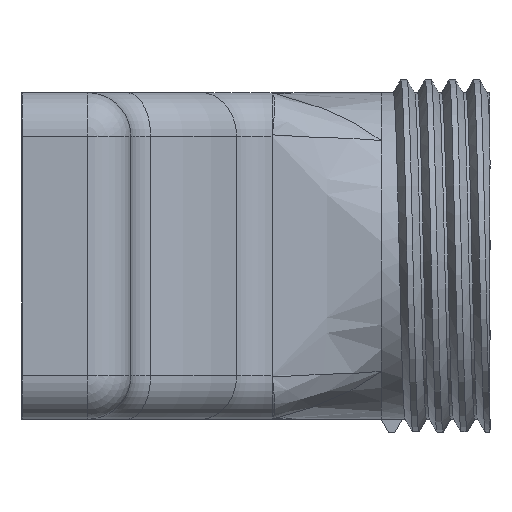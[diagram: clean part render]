
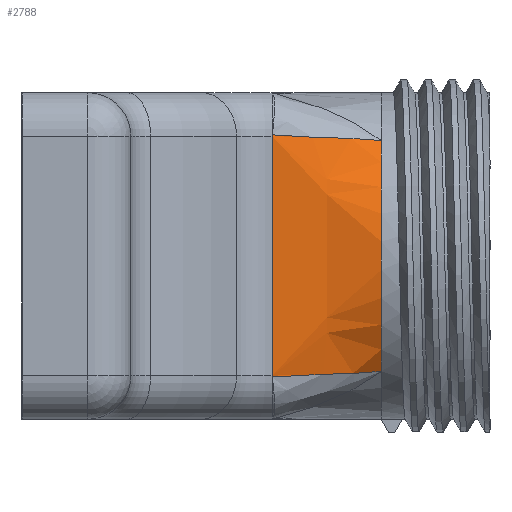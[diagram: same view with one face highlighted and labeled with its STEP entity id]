
A CAD part, front view. The second image highlights one B-rep face of the part: STEP entity #2788.
In plain terms, the highlighted free-form (B-spline) face has degree [3, 1] with [18, 2] control points.
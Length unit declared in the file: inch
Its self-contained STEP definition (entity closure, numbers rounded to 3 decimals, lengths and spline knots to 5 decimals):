
#50 = CARTESIAN_POINT ( 'NONE',  ( 0.90653, -0.27861, 0.26723 ) ) ;
#99 = CARTESIAN_POINT ( 'NONE',  ( 0.675, -0.375, 0.3125 ) ) ;
#121 = CARTESIAN_POINT ( 'NONE',  ( 0.925, -0.26517, -0.26517 ) ) ;
#133 = B_SPLINE_CURVE_WITH_KNOTS ( 'NONE', 3,
 ( #1060, #1289, #2148, #1047, #3257, #2956, #226, #476, #1552, #2994 ),
 .UNSPECIFIED., .F., .F.,
 ( 4, 2, 2, 2, 4 ),
 ( 0.00001, 0.00175, 0.0035, 0.00525, 0.007 ),
 .UNSPECIFIED. ) ;
#226 = CARTESIAN_POINT ( 'NONE',  ( 0.8477, -0.31411, -0.27033 ) ) ;
#336 = CARTESIAN_POINT ( 'NONE',  ( 0.925, -0.26517, 0.26517 ) ) ;
#382 = CIRCLE ( 'NONE', #608, 0.375 ) ;
#398 = CARTESIAN_POINT ( 'NONE',  ( 0.925, -0.32237, -0.19303 ) ) ;
#410 = VERTEX_POINT ( 'NONE', #1199 ) ;
#415 = CARTESIAN_POINT ( 'NONE',  ( 0.675, -0.375, 0.0625 ) ) ;
#433 = CARTESIAN_POINT ( 'NONE',  ( 0.925, -0.29561, -0.23194 ) ) ;
#474 = CARTESIAN_POINT ( 'NONE',  ( 0.675, -0.375, 0.27606 ) ) ;
#476 = CARTESIAN_POINT ( 'NONE',  ( 0.88758, -0.29154, -0.26872 ) ) ;
#538 = CARTESIAN_POINT ( 'NONE',  ( 0.67519, -0.37495, -0.27818 ) ) ;
#557 = FACE_OUTER_BOUND ( 'NONE', #1139, .T. ) ;
#608 = AXIS2_PLACEMENT_3D ( 'NONE', #1377, #3062, #2496 ) ;
#629 = CARTESIAN_POINT ( 'NONE',  ( 0.925, -0.26517, 0.26517 ) ) ;
#638 = CARTESIAN_POINT ( 'NONE',  ( 0.925, -0.26517, 0.26517 ) ) ;
#648 = CARTESIAN_POINT ( 'NONE',  ( 0.925, -0.35401, 0.12616 ) ) ;
#655 = CARTESIAN_POINT ( 'NONE',  ( 0.88745, -0.29117, 0.26862 ) ) ;
#665 = CARTESIAN_POINT ( 'NONE',  ( 0.675, -0.375, -0.3125 ) ) ;
#681 = EDGE_CURVE ( 'NONE', #1965, #1794, #3514, .T. ) ;
#756 = B_SPLINE_CURVE_WITH_KNOTS ( 'NONE', 3,
 ( #336, #1154, #50, #655, #2242, #1660, #3105, #1950, #3391, #3348, #2532, #1971 ),
 .UNSPECIFIED., .F., .F.,
 ( 4, 2, 2, 2, 2, 4 ),
 ( -0.00001, 0.00086, 0.00173, 0.00347, 0.00522, 0.00696 ),
 .UNSPECIFIED. ) ;
#798 = ORIENTED_EDGE ( 'NONE', *, *, #1369, .F. ) ;
#808 = CARTESIAN_POINT ( 'NONE',  ( 0.67519, -0.37495, 0.27818 ) ) ;
#858 = CARTESIAN_POINT ( 'NONE',  ( 0.925, -0.28079, 0.24954 ) ) ;
#916 = CARTESIAN_POINT ( 'NONE',  ( 0.675, -0.375, -0.375 ) ) ;
#953 = CARTESIAN_POINT ( 'NONE',  ( 0.675, -0.375, -0.34375 ) ) ;
#973 = CARTESIAN_POINT ( 'NONE',  ( 0.675, -0.375, 0.03125 ) ) ;
#1047 = CARTESIAN_POINT ( 'NONE',  ( 0.76304, -0.3492, -0.27284 ) ) ;
#1060 = CARTESIAN_POINT ( 'NONE',  ( 0.67519, -0.37495, -0.27818 ) ) ;
#1116 = ORIENTED_EDGE ( 'NONE', *, *, #2634, .T. ) ;
#1139 = EDGE_LOOP ( 'NONE', ( #2683, #1173, #798, #1573, #1116, #2284 ) ) ;
#1154 = CARTESIAN_POINT ( 'NONE',  ( 0.9159, -0.272, 0.26633 ) ) ;
#1173 = ORIENTED_EDGE ( 'NONE', *, *, #1501, .T. ) ;
#1199 = CARTESIAN_POINT ( 'NONE',  ( 0.67519, -0.37495, 0.27818 ) ) ;
#1218 = CARTESIAN_POINT ( 'NONE',  ( 0.925, -0.37229, -0.05177 ) ) ;
#1225 = CARTESIAN_POINT ( 'NONE',  ( 0.67519, -0.37495, -0.27818 ) ) ;
#1234 = CARTESIAN_POINT ( 'NONE',  ( 0.675, -0.375, 0.25 ) ) ;
#1289 = CARTESIAN_POINT ( 'NONE',  ( 0.69734, -0.36922, -0.2765 ) ) ;
#1350 = CARTESIAN_POINT ( 'NONE',  ( 0.675, -0.375, 0.375 ) ) ;
#1369 = EDGE_CURVE ( 'NONE', #1405, #3509, #382, .T. ) ;
#1377 = CARTESIAN_POINT ( 'NONE',  ( 0.925, 0., 0. ) ) ;
#1405 = VERTEX_POINT ( 'NONE', #638 ) ;
#1463 = CARTESIAN_POINT ( 'NONE',  ( 0.925, -0.33429, 0.17172 ) ) ;
#1482 = CARTESIAN_POINT ( 'NONE',  ( 0.675, -0.375, -0.03125 ) ) ;
#1497 = CARTESIAN_POINT ( 'NONE',  ( 0.675, -0.375, 0.21875 ) ) ;
#1501 = EDGE_CURVE ( 'NONE', #3184, #3509, #133, .T. ) ;
#1552 = CARTESIAN_POINT ( 'NONE',  ( 0.90675, -0.27886, -0.2675 ) ) ;
#1573 = ORIENTED_EDGE ( 'NONE', *, *, #3074, .T. ) ;
#1660 = CARTESIAN_POINT ( 'NONE',  ( 0.8478, -0.31406, 0.27032 ) ) ;
#1679 = CARTESIAN_POINT ( 'NONE',  ( 0.675, -0.375, 0.275 ) ) ;
#1732 = CARTESIAN_POINT ( 'NONE',  ( 0.925, -0.36179, -0.10191 ) ) ;
#1794 = VERTEX_POINT ( 'NONE', #1873 ) ;
#1844 = B_SPLINE_SURFACE_WITH_KNOTS ( 'NONE', 3, 1, ( 
 ( #3021, #629 ),
 ( #2541, #858 ),
 ( #99, #3302 ),
 ( #1234, #3170 ),
 ( #1497, #1463 ),
 ( #2040, #648 ),
 ( #3416, #3116 ),
 ( #415, #2290 ),
 ( #973, #3399 ),
 ( #1482, #2020 ),
 ( #2846, #1218 ),
 ( #2583, #1732 ),
 ( #2564, #3135 ),
 ( #2309, #2328 ),
 ( #2062, #398 ),
 ( #665, #433 ),
 ( #953, #3436 ),
 ( #916, #121 ) ),
 .UNSPECIFIED., .F., .F., .F.,
 ( 4, 2, 2, 2, 2, 2, 2, 2, 4 ),
 ( 2, 2 ),
 ( 0., 0.125, 0.25, 0.375, 0.5, 0.625, 0.75, 0.875, 1. ),
 ( 0., 1. ),
 .UNSPECIFIED. ) ;
#1873 = CARTESIAN_POINT ( 'NONE',  ( 0.675, -0.375, -0.275 ) ) ;
#1889 = CARTESIAN_POINT ( 'NONE',  ( 0.675, -0.375, 0.275 ) ) ;
#1910 = CARTESIAN_POINT ( 'NONE',  ( 0.67507, -0.37498, -0.27712 ) ) ;
#1950 = CARTESIAN_POINT ( 'NONE',  ( 0.78474, -0.34153, 0.27203 ) ) ;
#1965 = VERTEX_POINT ( 'NONE', #1679 ) ;
#1971 = CARTESIAN_POINT ( 'NONE',  ( 0.67519, -0.37495, 0.27818 ) ) ;
#2020 = CARTESIAN_POINT ( 'NONE',  ( 0.925, -0.375, -0.02589 ) ) ;
#2033 = B_SPLINE_CURVE_WITH_KNOTS ( 'NONE', 3,
 ( #3494, #2731, #1910, #538 ),
 .UNSPECIFIED., .F., .F.,
 ( 4, 4 ),
 ( 0., 0.00008 ),
 .UNSPECIFIED. ) ;
#2040 = CARTESIAN_POINT ( 'NONE',  ( 0.675, -0.375, 0.15625 ) ) ;
#2062 = CARTESIAN_POINT ( 'NONE',  ( 0.675, -0.375, -0.25 ) ) ;
#2148 = CARTESIAN_POINT ( 'NONE',  ( 0.71939, -0.36303, -0.27508 ) ) ;
#2224 = EDGE_CURVE ( 'NONE', #1794, #3184, #2033, .T. ) ;
#2231 = CARTESIAN_POINT ( 'NONE',  ( 0.925, -0.26517, -0.26517 ) ) ;
#2242 = CARTESIAN_POINT ( 'NONE',  ( 0.87769, -0.29713, 0.26912 ) ) ;
#2258 = VECTOR ( 'NONE', #3001, 39.37008 ) ;
#2284 = ORIENTED_EDGE ( 'NONE', *, *, #681, .T. ) ;
#2290 = CARTESIAN_POINT ( 'NONE',  ( 0.925, -0.37229, 0.05177 ) ) ;
#2309 = CARTESIAN_POINT ( 'NONE',  ( 0.675, -0.375, -0.21875 ) ) ;
#2328 = CARTESIAN_POINT ( 'NONE',  ( 0.925, -0.33429, -0.17172 ) ) ;
#2496 = DIRECTION ( 'NONE',  ( 0., 0., -1. ) ) ;
#2532 = CARTESIAN_POINT ( 'NONE',  ( 0.69735, -0.36921, 0.2765 ) ) ;
#2541 = CARTESIAN_POINT ( 'NONE',  ( 0.675, -0.375, 0.34375 ) ) ;
#2564 = CARTESIAN_POINT ( 'NONE',  ( 0.675, -0.375, -0.15625 ) ) ;
#2583 = CARTESIAN_POINT ( 'NONE',  ( 0.675, -0.375, -0.125 ) ) ;
#2634 = EDGE_CURVE ( 'NONE', #410, #1965, #2991, .T. ) ;
#2683 = ORIENTED_EDGE ( 'NONE', *, *, #2224, .T. ) ;
#2731 = CARTESIAN_POINT ( 'NONE',  ( 0.675, -0.375, -0.27606 ) ) ;
#2788 = ADVANCED_FACE ( 'NONE', ( #557 ), #1844, .T. ) ;
#2846 = CARTESIAN_POINT ( 'NONE',  ( 0.675, -0.375, -0.0625 ) ) ;
#2956 = CARTESIAN_POINT ( 'NONE',  ( 0.82699, -0.32403, -0.27077 ) ) ;
#2991 = B_SPLINE_CURVE_WITH_KNOTS ( 'NONE', 3,
 ( #808, #3286, #474, #1889 ),
 .UNSPECIFIED., .F., .F.,
 ( 4, 4 ),
 ( 0., 0.00008 ),
 .UNSPECIFIED. ) ;
#2994 = CARTESIAN_POINT ( 'NONE',  ( 0.925, -0.26517, -0.26517 ) ) ;
#3001 = DIRECTION ( 'NONE',  ( 0., 0., -1. ) ) ;
#3021 = CARTESIAN_POINT ( 'NONE',  ( 0.675, -0.375, 0.375 ) ) ;
#3062 = DIRECTION ( 'NONE',  ( 1., 0., 0. ) ) ;
#3074 = EDGE_CURVE ( 'NONE', #1405, #410, #756, .T. ) ;
#3105 = CARTESIAN_POINT ( 'NONE',  ( 0.82707, -0.32399, 0.27077 ) ) ;
#3116 = CARTESIAN_POINT ( 'NONE',  ( 0.925, -0.36179, 0.10191 ) ) ;
#3135 = CARTESIAN_POINT ( 'NONE',  ( 0.925, -0.35401, -0.12616 ) ) ;
#3170 = CARTESIAN_POINT ( 'NONE',  ( 0.925, -0.32237, 0.19303 ) ) ;
#3184 = VERTEX_POINT ( 'NONE', #1225 ) ;
#3257 = CARTESIAN_POINT ( 'NONE',  ( 0.78468, -0.34155, -0.27203 ) ) ;
#3286 = CARTESIAN_POINT ( 'NONE',  ( 0.67507, -0.37498, 0.27712 ) ) ;
#3302 = CARTESIAN_POINT ( 'NONE',  ( 0.925, -0.29561, 0.23194 ) ) ;
#3348 = CARTESIAN_POINT ( 'NONE',  ( 0.71941, -0.36302, 0.27508 ) ) ;
#3391 = CARTESIAN_POINT ( 'NONE',  ( 0.76309, -0.34919, 0.27284 ) ) ;
#3399 = CARTESIAN_POINT ( 'NONE',  ( 0.925, -0.375, 0.02589 ) ) ;
#3416 = CARTESIAN_POINT ( 'NONE',  ( 0.675, -0.375, 0.125 ) ) ;
#3436 = CARTESIAN_POINT ( 'NONE',  ( 0.925, -0.28079, -0.24954 ) ) ;
#3494 = CARTESIAN_POINT ( 'NONE',  ( 0.675, -0.375, -0.275 ) ) ;
#3509 = VERTEX_POINT ( 'NONE', #2231 ) ;
#3514 = LINE ( 'NONE', #1350, #2258 ) ;
